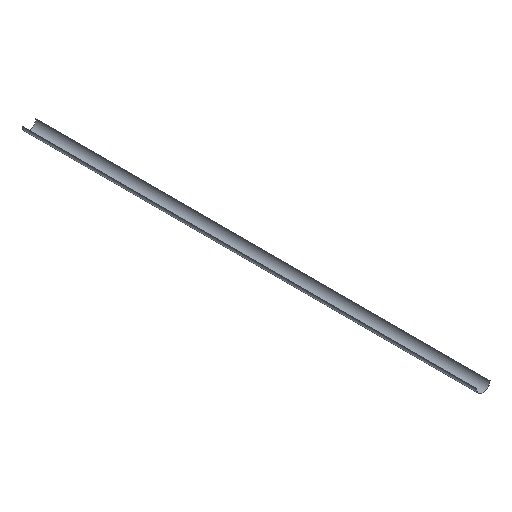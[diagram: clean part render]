
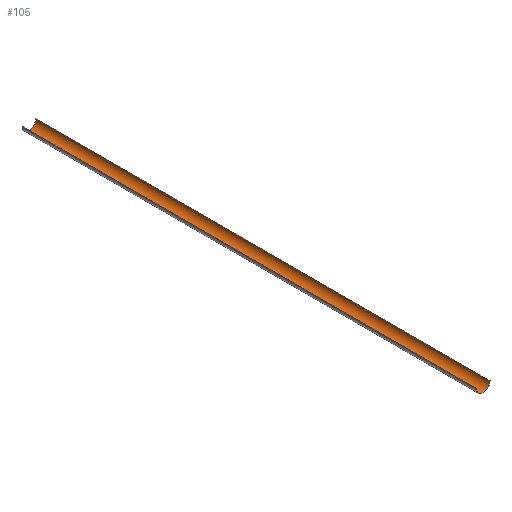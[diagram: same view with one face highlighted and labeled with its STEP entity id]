
A CAD part, isometric view. The second image highlights one B-rep face of the part: STEP entity #105.
In plain terms, the highlighted cylindrical face has radius 45 mm (diameter 90 mm), a partial arc.
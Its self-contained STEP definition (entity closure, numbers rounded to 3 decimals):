
#13=CYLINDRICAL_SURFACE($,#117,45.);
#18=FACE_OUTER_BOUND($,#24,.T.);
#24=EDGE_LOOP($,(#82,#83,#84,#85));
#26=CIRCLE($,#111,45.);
#29=CIRCLE($,#118,45.);
#34=LINE($,#165,#42);
#37=LINE($,#173,#45);
#42=VECTOR($,#134,3000.);
#45=VECTOR($,#143,3000.);
#46=VERTEX_POINT($,#152);
#48=VERTEX_POINT($,#155);
#50=VERTEX_POINT($,#161);
#53=VERTEX_POINT($,#171);
#55=EDGE_CURVE($,#48,#46,#26,.T.);
#60=EDGE_CURVE($,#50,#48,#34,.T.);
#64=EDGE_CURVE($,#46,#53,#37,.T.);
#65=EDGE_CURVE($,#53,#50,#29,.T.);
#82=ORIENTED_EDGE($,*,*,#65,.T.);
#83=ORIENTED_EDGE($,*,*,#60,.T.);
#84=ORIENTED_EDGE($,*,*,#55,.T.);
#85=ORIENTED_EDGE($,*,*,#64,.T.);
#105=ADVANCED_FACE($,(#18),#13,.F.);
#111=AXIS2_PLACEMENT_3D($,#156,#125,#126);
#117=AXIS2_PLACEMENT_3D($,#174,#144,#145);
#118=AXIS2_PLACEMENT_3D($,#175,#146,#147);
#125=DIRECTION('center_axis',(0.,-1.,0.));
#126=DIRECTION('ref_axis',(-1.,0.,0.));
#134=DIRECTION($,(0.,-1.,0.));
#143=DIRECTION($,(0.,1.,0.));
#144=DIRECTION('center_axis',(0.,1.,0.));
#145=DIRECTION('ref_axis',(-1.,0.,0.));
#146=DIRECTION('center_axis',(0.,1.,0.));
#147=DIRECTION('ref_axis',(-1.,0.,0.));
#152=CARTESIAN_POINT('',(45.,-1500.,0.));
#155=CARTESIAN_POINT('',(-45.,-1500.,0.));
#156=CARTESIAN_POINT('Origin',(0.,-1500.,0.));
#161=CARTESIAN_POINT('',(-45.,1500.,0.));
#165=CARTESIAN_POINT($,(-45.,0.,0.));
#171=CARTESIAN_POINT('',(45.,1500.,0.));
#173=CARTESIAN_POINT($,(45.,0.,0.));
#174=CARTESIAN_POINT('Origin',(0.,0.,0.));
#175=CARTESIAN_POINT('Origin',(0.,1500.,0.));
